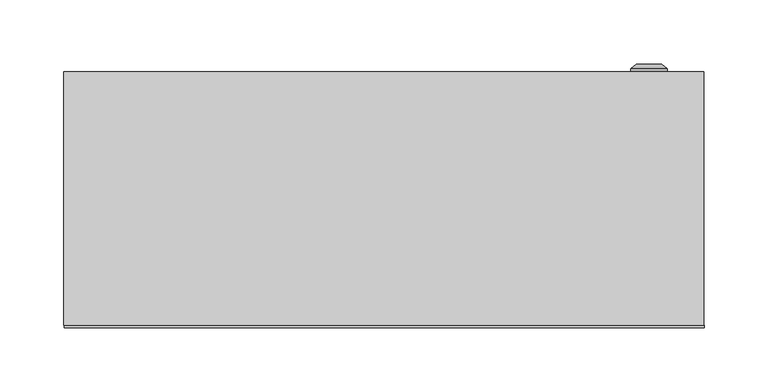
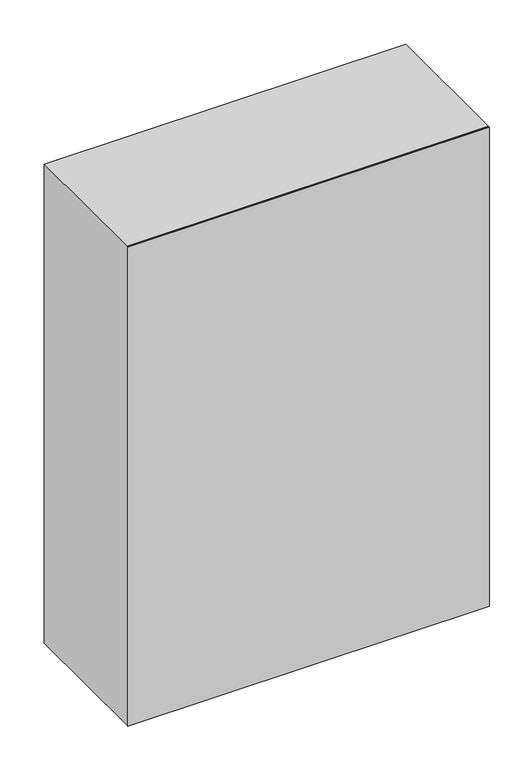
"""IFC4 building model written with IfcOpenShell, lengths in millimetres: proxy geometry, ЩМП : ЩМП-7.5.2_700х500х200."""

from ifc_helpers import new_model, si_unit, frame, origin, origin_with_axes, place, context, project, spatial, polyline, circle_curve, outline, extrude, source, transform, mapped, element, save
from ifc_brep_helpers import plane_surface, cylinder_surface, revolved_surface, advanced_brep


def electrical_equipment_ad4c9414(model_context):
    return source(origin(), model_context, "Body", "SolidModel", [
        advanced_brep(
        [(192.669873, 200.0, 364.5), (221.330127, 200.0, 364.5), (207.0, 200.0, 364.5), (192.669873, 202.366592, 364.5), (221.330127, 202.366592, 364.5), (197.0, 206.0, 364.5), (217.0, 206.0, 364.5), (205.1080471, 206.0, 364.5), (208.8919529, 206.0, 364.5), (205.1080471, 204.9822294, 364.5), (208.8919529, 204.9822294, 364.5), (207.0, 204.9822294, 364.5)],
        [
            (0, 1, circle_curve(frame((207.0, 200.0, 364.5), z_axis=(0.0, -1.0, 0.0), x_axis=(1.0, 0.0, 0.0)), 14.330127)),
            (1, 2),
            (2, 0),
            (1, 0, circle_curve(frame((207.0, 200.0, 364.5), z_axis=(0.0, -1.0, 0.0), x_axis=(1.0, 0.0, 0.0)), 14.330127)),
            (3, 4, circle_curve(frame((207.0, 202.366592, 364.5), z_axis=(0.0, -1.0, 0.0), x_axis=(1.0, 0.0, 0.0)), 14.330127)),
            (4, 1),
            (0, 3),
            (4, 3, circle_curve(frame((207.0, 202.366592, 364.5), z_axis=(0.0, -1.0, 0.0), x_axis=(1.0, 0.0, 0.0)), 14.330127)),
            (5, 6, circle_curve(frame((207.0, 206.0, 364.5), z_axis=(0.0, -1.0, 0.0), x_axis=(1.0, 0.0, 0.0)), 10.0)),
            (6, 4),
            (3, 5),
            (6, 5, circle_curve(frame((207.0, 206.0, 364.5), z_axis=(0.0, -1.0, 0.0), x_axis=(1.0, 0.0, 0.0)), 10.0)),
            (7, 8, circle_curve(frame((207.0, 206.0, 364.5), z_axis=(0.0, -1.0, 0.0), x_axis=(1.0, 0.0, 0.0)), 1.8919529)),
            (8, 6),
            (5, 7),
            (8, 7, circle_curve(frame((207.0, 206.0, 364.5), z_axis=(0.0, -1.0, 0.0), x_axis=(1.0, 0.0, 0.0)), 1.8919529)),
            (9, 10, circle_curve(frame((207.0, 204.9822294, 364.5), z_axis=(0.0, -1.0, 0.0), x_axis=(1.0, 0.0, 0.0)), 1.8919529)),
            (10, 8),
            (7, 9),
            (10, 9, circle_curve(frame((207.0, 204.9822294, 364.5), z_axis=(0.0, -1.0, 0.0), x_axis=(1.0, 0.0, 0.0)), 1.8919529)),
            (11, 10),
            (9, 11),
        ],
        [
            plane_surface(frame((207.0, 200.0, 364.5), z_axis=(0.0, -1.0, 0.0), x_axis=(1.0, 0.0, 0.0))),
            cylinder_surface(frame((207.0, 213.1348851, 364.5), z_axis=(0.0, 1.0, 0.0), x_axis=(1.0, 0.0, 0.0)), 14.330127),
            revolved_surface(polyline([(221.330127, 202.366592, 364.5), (217.0, 206.0, 364.5)]), (207.0, 213.1348851, 364.5), (0.0, 1.0, 0.0)),
            plane_surface(frame((207.0, 206.0, 364.5), z_axis=(0.0, 1.0, 0.0), x_axis=(1.0, 0.0, 0.0))),
            revolved_surface(polyline([(208.8919529, 206.0, 364.5), (208.8919529, 204.9822294, 364.5)]), (207.0, 213.1348851, 364.5), (0.0, 1.0, 0.0)),
            plane_surface(frame((207.0, 204.9822294, 364.5), z_axis=(0.0, 1.0, 0.0), x_axis=(1.0, 0.0, 0.0))),
        ],
        [
            (0, [[1, 2, 3]]),
            (0, [[4, -3, -2]]),
            (1, [[5, 6, -1, 7]]),
            (1, [[8, -7, -4, -6]]),
            (2, [[9, 10, -5, 11]]),
            (2, [[12, -11, -8, -10]]),
            (3, [[13, 14, -9, 15]]),
            (3, [[16, -15, -12, -14]]),
            (4, [[17, 18, -13, 19]]),
            (4, [[20, -19, -16, -18]]),
            (5, [[21, -17, 22]]),
            (5, [[-22, -20, -21]]),
        ],
    ),
        extrude(outline(polyline([(232.5, 175.0), (-232.5, 175.0), (-232.5, 200.0), (232.5, 200.0), (232.5, 175.0)])), frame((0.0, 0.0, 25.75), z_axis=(0.0, 0.0, 1.0), x_axis=(1.0, 0.0, 0.0)), (0.0, 0.0, 1.0), 648.5),
        extrude(outline(polyline([(700.0, -250.0033905), (0.0, -250.0033905), (0.0, 249.9966095), (700.0, 249.9966095), (700.0, -250.0033905)]), holes=[polyline([(665.0, -217.0033905), (665.0, 216.9966095), (64.0, 216.9966095), (64.0, -217.0033905), (665.0, -217.0033905)])]), frame((0.0, 2.0, 0.0), z_axis=(0.0, 1.0, 0.0), x_axis=(0.0, 0.0, 1.0)), (0.0, 0.0, 1.0), 198.0),
        extrude(outline(polyline([(250.0, 0.0), (-250.0, 0.0), (-250.0, 2.0), (250.0, 2.0), (250.0, 0.0)])), origin_with_axes(), (0.0, 0.0, 1.0), 700.0),
    ])


if __name__ == "__main__":
    model = new_model("IFC4")
    model_context = context("Model", 3, world=origin())
    ifc_project = project(units=[si_unit("LENGTHUNIT", "METRE", prefix="MILLI")], contexts=[model_context])
    site = spatial("IfcSite", under=ifc_project)
    building = spatial("IfcBuilding", under=site)
    placement = place(None, origin())
    electrical_equipment_shape = electrical_equipment_ad4c9414(model_context)
    element("IfcBuildingElementProxy", 1, Name="ЩМП : ЩМП-7.5.2_700х500х200", ObjectType="ЩМП : ЩМП-7.5.2_700х500х200", at=placement, inside=building, context=model_context, shape_type="MappedRepresentation", body=[
        mapped(electrical_equipment_shape, transform((0.0, 0.0, 0.0), x_axis=(1.0, 0.0, 0.0), y_axis=(0.0, 1.0, 0.0), z_axis=(0.0, 0.0, 1.0))),
    ])
    save(model, "model.ifc")
